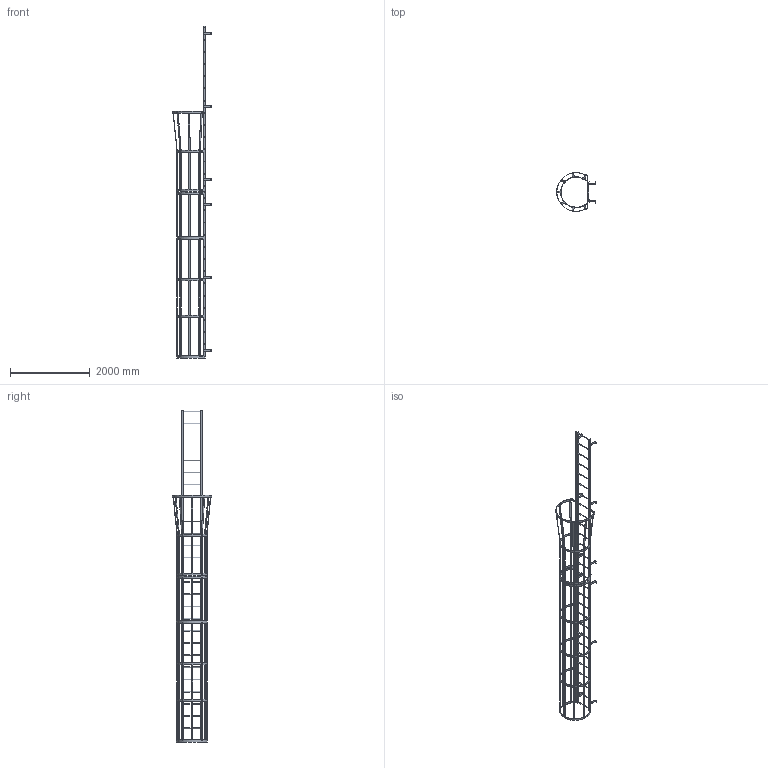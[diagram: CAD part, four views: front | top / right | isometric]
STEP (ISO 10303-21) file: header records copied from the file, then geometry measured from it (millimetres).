
FILE_DESCRIPTION(/* description */ (''),/* implementation_level */ '2;1');
FILE_NAME(/* name */ 'P:\MIKEL & KAREN\D0570195-14 F28SC SIMPLIFIED PART.stp',/* time_stamp */ '2018-07-03T08:09:14-04:00',/* author */ ('stephanie'),/* organization */ (''),/* preprocessor_version */ 'ST-DEVELOPER v16.1',/* originating_system */ 'Autodesk Inventor 2016',/* authorisation */ '');
FILE_SCHEMA (('AUTOMOTIVE_DESIGN { 1 0 10303 214 3 1 1 }'));
Length unit declared in the file: centimetre
Products named in the file (1): D0570195-14 F28SC SIMPLIFIED PART
Bounding box: 974.15 x 977.88 x 8305.8 mm (x, y, z)
Volume: 27449550 mm3; surface area: 9738418.5 mm2
Topology: 43 solids, 43 shells, 747 faces, 2181 edges, 1400 vertices
Faces by surface type: plane 482, cylinder 265
Full cylindrical faces by diameter (mm): 14.287 x14, 19.05 x28, 22.225 x56
Entity records: 24917 total; most frequent: ORIENTED_EDGE 4222, DIRECTION 4135, CARTESIAN_POINT 4091, EDGE_CURVE 2013, LINE 1387, VECTOR 1387, AXIS2_PLACEMENT_3D 1374, VERTEX_POINT 1330
